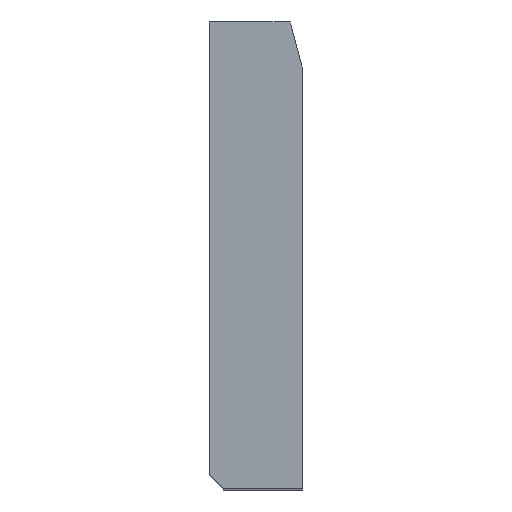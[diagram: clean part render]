
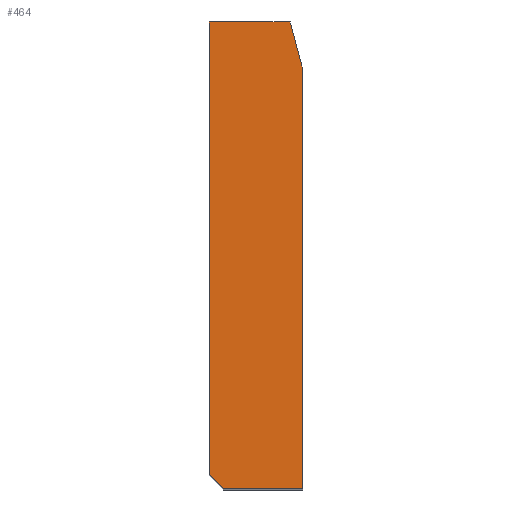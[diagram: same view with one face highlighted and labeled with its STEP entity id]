
A CAD part, top view. The second image highlights one B-rep face of the part: STEP entity #464.
In plain terms, the highlighted planar face has unit normal (0, 0, 1).
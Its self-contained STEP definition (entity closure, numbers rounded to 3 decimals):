
#70=CARTESIAN_POINT('Vertex',(0.,3.,62.5)) ;
#73=CARTESIAN_POINT('Line Origine',(0.,51.5,62.5)) ;
#77=CARTESIAN_POINT('Vertex',(0.,100.,62.5)) ;
#402=CARTESIAN_POINT('Vertex',(3.,0.,62.5)) ;
#405=CARTESIAN_POINT('Line Origine',(1.5,1.5,62.5)) ;
#417=CARTESIAN_POINT('Axis2P3D Location',(15.,89.342,62.5)) ;
#422=CARTESIAN_POINT('Line Origine',(11.5,0.,62.5)) ;
#426=CARTESIAN_POINT('Vertex',(20.,0.,62.5)) ;
#429=CARTESIAN_POINT('Line Origine',(20.,44.671,62.5)) ;
#433=CARTESIAN_POINT('Vertex',(20.,89.342,62.5)) ;
#436=CARTESIAN_POINT('Axis2P3D Location',(15.,89.342,62.5)) ;
#440=CARTESIAN_POINT('Vertex',(19.83,90.636,62.5)) ;
#443=CARTESIAN_POINT('Line Origine',(18.575,95.318,62.5)) ;
#447=CARTESIAN_POINT('Vertex',(17.321,100.,62.5)) ;
#450=CARTESIAN_POINT('Line Origine',(8.66,100.,62.5)) ;
#74=DIRECTION('Vector Direction',(0.,-1.,0.)) ;
#406=DIRECTION('Vector Direction',(0.707,-0.707,0.)) ;
#418=DIRECTION('Axis2P3D Direction',(0.,0.,1.)) ;
#419=DIRECTION('Axis2P3D XDirection',(1.,0.,-0.)) ;
#423=DIRECTION('Vector Direction',(1.,0.,0.)) ;
#430=DIRECTION('Vector Direction',(0.,1.,0.)) ;
#437=DIRECTION('Axis2P3D Direction',(0.,0.,1.)) ;
#444=DIRECTION('Vector Direction',(-0.259,0.966,0.)) ;
#451=DIRECTION('Vector Direction',(-1.,0.,0.)) ;
#420=AXIS2_PLACEMENT_3D('Plane Axis2P3D',#417,#418,#419) ;
#438=AXIS2_PLACEMENT_3D('Circle Axis2P3D',#436,#437,$) ;
#456=ORIENTED_EDGE('',*,*,#79,.T.) ;
#457=ORIENTED_EDGE('',*,*,#409,.T.) ;
#458=ORIENTED_EDGE('',*,*,#428,.T.) ;
#459=ORIENTED_EDGE('',*,*,#435,.T.) ;
#460=ORIENTED_EDGE('',*,*,#442,.T.) ;
#461=ORIENTED_EDGE('',*,*,#449,.T.) ;
#462=ORIENTED_EDGE('',*,*,#454,.T.) ;
#75=VECTOR('Line Direction',#74,1.) ;
#407=VECTOR('Line Direction',#406,1.) ;
#424=VECTOR('Line Direction',#423,1.) ;
#431=VECTOR('Line Direction',#430,1.) ;
#445=VECTOR('Line Direction',#444,1.) ;
#452=VECTOR('Line Direction',#451,1.) ;
#464=ADVANCED_FACE('A915-125X100',(#463),#421,.T.) ;
#439=CIRCLE('generated circle',#438,5.) ;
#79=EDGE_CURVE('',#78,#71,#76,.T.) ;
#409=EDGE_CURVE('',#71,#403,#408,.T.) ;
#428=EDGE_CURVE('',#403,#427,#425,.T.) ;
#435=EDGE_CURVE('',#427,#434,#432,.T.) ;
#442=EDGE_CURVE('',#434,#441,#439,.T.) ;
#449=EDGE_CURVE('',#441,#448,#446,.T.) ;
#454=EDGE_CURVE('',#448,#78,#453,.T.) ;
#455=EDGE_LOOP('',(#456,#457,#458,#459,#460,#461,#462)) ;
#463=FACE_OUTER_BOUND('',#455,.T.) ;
#76=LINE('Line',#73,#75) ;
#408=LINE('Line',#405,#407) ;
#425=LINE('Line',#422,#424) ;
#432=LINE('Line',#429,#431) ;
#446=LINE('Line',#443,#445) ;
#453=LINE('Line',#450,#452) ;
#421=PLANE('Plane',#420) ;
#71=VERTEX_POINT('',#70) ;
#78=VERTEX_POINT('',#77) ;
#403=VERTEX_POINT('',#402) ;
#427=VERTEX_POINT('',#426) ;
#434=VERTEX_POINT('',#433) ;
#441=VERTEX_POINT('',#440) ;
#448=VERTEX_POINT('',#447) ;
